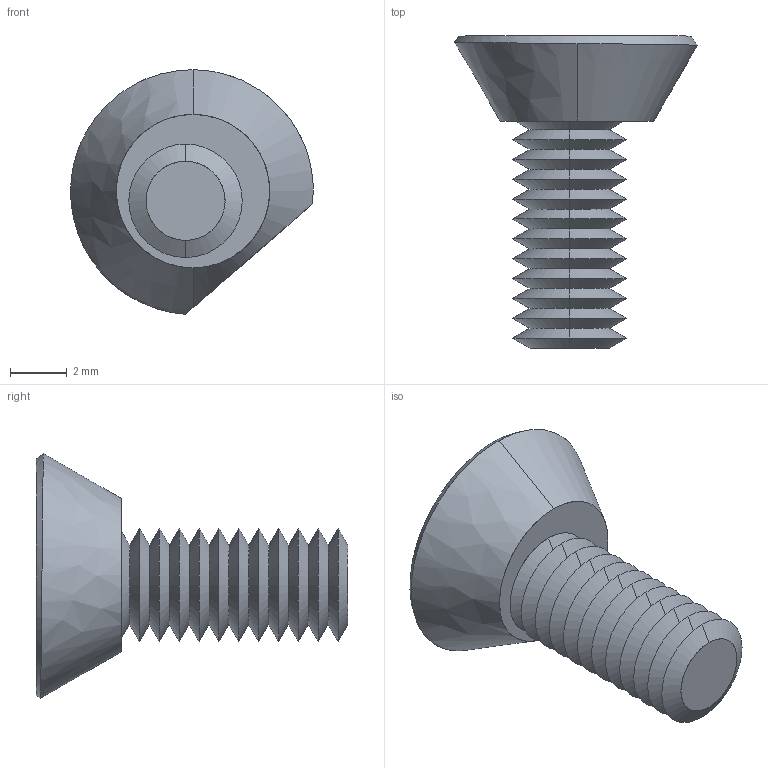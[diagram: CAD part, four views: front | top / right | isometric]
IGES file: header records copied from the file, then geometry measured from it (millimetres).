
Start section: SolidWorks IGES file using analytic representation for surfaces
Global section: file name: C:\Users\IanO\Desktop\Temp File\General\12111_v2\12111_v2_20180517_IGES\12111.W0004.igs; native system: SolidWorks 2017; preprocessor: SolidWorks 2017; author: IanO; date: 180522.151904; units: millimetre
Bounding box: 8.56 x 11 x 8.62 mm (x, y, z)
Surface area: 335.4 mm2 (no closed solid volume)
Topology: 0 solids, 0 shells, 73 faces, 548 edges, 546 vertices
Faces by surface type: revolution 56, bspline 17
